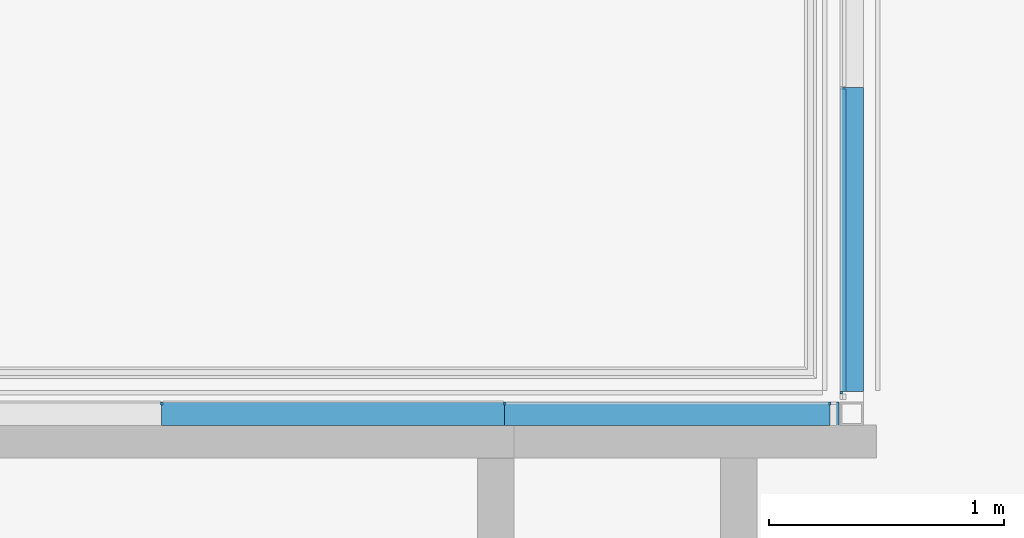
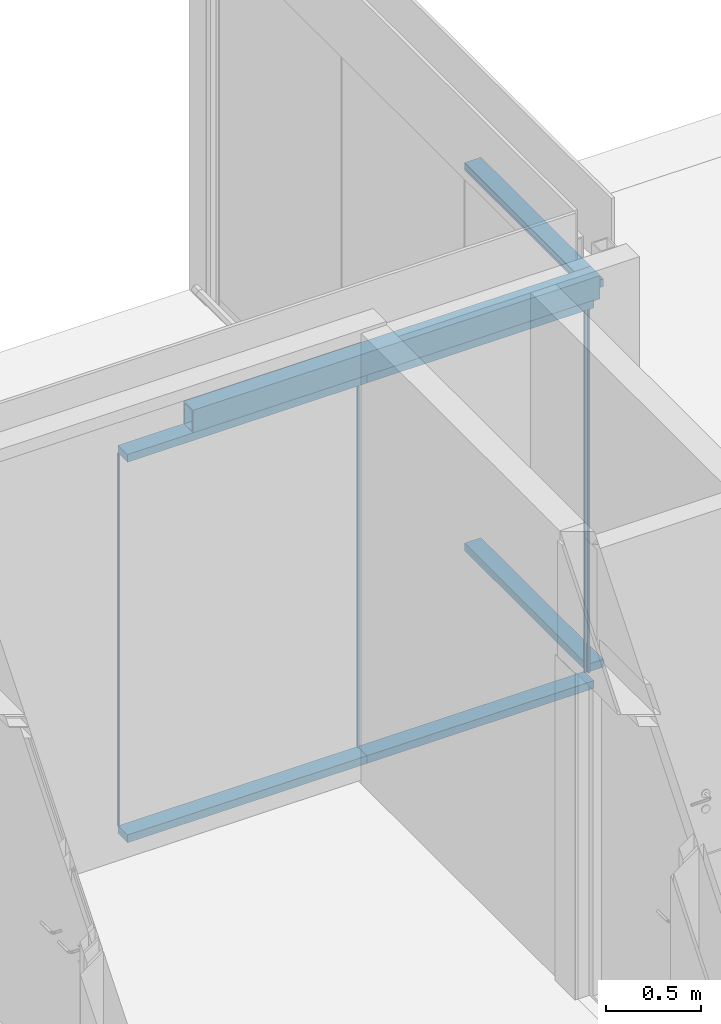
# One storey, part 3 of 37: 11 members, 1 beam, 2 elements without a shape of their own.
"""IFC2X3 building model written with IfcOpenShell, lengths in millimetres."""

from ifc_helpers import new_model, entity, si_unit, converted_unit, derived_unit, direction, frame, frame_2d, origin, origin_with_axes, origin_2d_with_axis, place, context, subcontext, project, spatial, rectangle, extrude, boolean, source, transform, mapped, material, type_object, element, aggregate, save


model = new_model("IFC2X3")

# Units and contexts
model_context = context("Model", 3, precision=0.01, world=frame((0.0, 4.29681676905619e-09, 0.0)), true_north=direction((4.01073788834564e-13, 1.0)))
plan_context = context("Plan", 3, precision=0.01, world=frame((0.0, 4.29681676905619e-09, 0.0)), true_north=direction((4.01073788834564e-13, 1.0)))
body_context = subcontext(model_context, "Body", "Model", "MODEL_VIEW")
ifc_project = project(units=[converted_unit("PLANEANGLEUNIT", "DEGREE", entity("IfcPositiveLengthMeasure", 0.0174532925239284), si_unit("PLANEANGLEUNIT", "RADIAN"), dimensions=[0, 0, 0, 0, 0, 0, 0]), si_unit("AREAUNIT", "SQUARE_METRE"), si_unit("LENGTHUNIT", "METRE", prefix="MILLI"), si_unit("MASSUNIT", "GRAM", prefix="KILO"), si_unit("POWERUNIT", "WATT"), si_unit("PRESSUREUNIT", "PASCAL"), si_unit("FORCEUNIT", "NEWTON", prefix="KILO"), si_unit("ELECTRICVOLTAGEUNIT", "VOLT"), si_unit("ELECTRICCURRENTUNIT", "AMPERE"), si_unit("THERMODYNAMICTEMPERATUREUNIT", "DEGREE_CELSIUS"), si_unit("TIMEUNIT", "SECOND"), si_unit("VOLUMEUNIT", "CUBIC_METRE"), derived_unit("LINEARVELOCITYUNIT", [(si_unit("LENGTHUNIT", "METRE"), 1), (si_unit("TIMEUNIT", "SECOND"), -1)]), derived_unit("VOLUMETRICFLOWRATEUNIT", [(si_unit("VOLUMEUNIT", "CUBIC_METRE"), 1), (si_unit("TIMEUNIT", "SECOND"), -1)]), derived_unit("THERMALTRANSMITTANCEUNIT", [(si_unit("POWERUNIT", "WATT"), 1), (si_unit("THERMODYNAMICTEMPERATUREUNIT", "KELVIN"), -1), (si_unit("AREAUNIT", "SQUARE_METRE"), -1)]), derived_unit("SOUNDPRESSUREUNIT", [(si_unit("PRESSUREUNIT", "PASCAL"), 1)])], contexts=[model_context, plan_context])

# Site, building, storey
site_placement = place(None, origin_with_axes())
site = spatial("IfcSite", under=ifc_project, at=site_placement, Name="ENGM", CompositionType="ELEMENT")
building_placement = place(site_placement, origin_with_axes())
building = spatial("IfcBuilding", under=site, at=building_placement, Name="TS", CompositionType="ELEMENT")
storey_placement = place(building_placement, frame((0.0, 0.0, 210900.0), z_axis=(0.0, 0.0, 1.0), x_axis=(1.0, 0.0, 0.0)))
storey = spatial("IfcBuildingStorey", under=building, at=storey_placement, Name="Nivå F", CompositionType="ELEMENT", Elevation=210900.0)

# Curtain wall, members
curtain_wall_type = type_object("IfcCurtainWallType", Name="Curtain Wall:A242 - IGV - Glass - 10 mm", PredefinedType="NOTDEFINED")
curtain_wall_1_placement = place(storey_placement, frame((0.0, 0.0, -210900.0), z_axis=(0.0, 0.0, 1.0), x_axis=(1.0, 0.0, 0.0)))
curtain_wall_1 = element("IfcCurtainWall", 1, at=curtain_wall_1_placement, inside=storey, type_object=curtain_wall_type, Name="Curtain Wall:A242 - IGV - Glass - 10 mm", ObjectType="Curtain Wall:A242 - IGV - Glass - 10 mm")
ifc_material_1 = material(Name="Metal - Aluminium")
member_type_1 = type_object("IfcMemberType", Name="Rectangular Mullion:A233 - Sprosse rektangulær - 50 x 100 mm", PredefinedType="MULLION", material=ifc_material_1)
shared_shape_1 = source(origin(), body_context, "Body", "SweptSolid", [
    extrude(rectangle(XDim=50.0, YDim=100.0, at=origin_2d_with_axis()), frame((-25.0, 50.0, -1291.66666666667), z_axis=(0.0, 0.0, 1.0), x_axis=(-1.0, 0.0, 0.0)), (0.0, 0.0, 1.0), 1291.66666666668),
])
member_1_placement = place(curtain_wall_1_placement, frame((524920.000000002, 457794.999999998, 210905.0), z_axis=(0.0, -1.0, 0.0), x_axis=(0.0, 0.0, -1.0)))
member_1 = element("IfcMember", 2, at=member_1_placement, type_object=member_type_1, material=ifc_material_1, Name="Rectangular Mullion:A233 - Sprosse rektangulær - 50 x 100 mm", ObjectType="Rectangular Mullion:A233 - Sprosse rektangulær - 50 x 100 mm", context=body_context, shape_type="MappedRepresentation", body=[
    mapped(shared_shape_1, transform((0.0, 0.0, 0.0), scale=1.0)),
])
ifc_material_2 = material(Name="Fuge l")
member_type_2 = type_object("IfcMemberType", Name="Rectangular Mullion:A233 - Fuge 10 mm", PredefinedType="MULLION", material=ifc_material_2)
shared_shape_2 = source(origin(), body_context, "Body", "SweptSolid", [
    extrude(rectangle(XDim=11.9999999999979, YDim=10.0, at=origin_2d_with_axis()), frame((0.0, 6.0, -2475.0), z_axis=(0.0, 0.0, 1.0), x_axis=(0.0, 1.0, 0.0)), (0.0, 0.0, 1.0), 2475.00000000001),
])
member_2_placement = place(curtain_wall_1_placement, frame((524920.000000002, 457789.999999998, 210905.0), z_axis=(0.0, 0.0, -1.0), x_axis=(0.0, 1.0, 0.0)))
member_2 = element("IfcMember", 3, at=member_2_placement, type_object=member_type_2, material=ifc_material_2, Name="Rectangular Mullion:A233 - Fuge 10 mm", ObjectType="Rectangular Mullion:A233 - Fuge 10 mm", context=body_context, shape_type="MappedRepresentation", body=[
    mapped(shared_shape_2, transform((0.0, 0.0, 0.0), scale=1.0)),
])
member_type_3 = type_object("IfcMemberType", Name="Rectangular Mullion:A233 - Sprosse rektangulær - 50 x 100 mm", PredefinedType="MULLION", material=ifc_material_1)
shared_shape_3 = source(origin(), body_context, "Body", "SweptSolid", [
    extrude(rectangle(XDim=50.0, YDim=100.0, at=origin_2d_with_axis()), frame((0.0, 50.0, -1291.66666666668), z_axis=(0.0, 0.0, 1.0), x_axis=(-1.0, 0.0, 0.0)), (0.0, 0.0, 1.0), 1291.66666666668),
])
member_3_placement = place(curtain_wall_1_placement, frame((524920.000000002, 459086.666666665, 213380.0), z_axis=(0.0, 1.0, 0.0), x_axis=(0.0, 0.0, 1.0)))
member_3 = element("IfcMember", 4, at=member_3_placement, type_object=member_type_3, material=ifc_material_1, Name="Rectangular Mullion:A233 - Sprosse rektangulær - 50 x 100 mm", ObjectType="Rectangular Mullion:A233 - Sprosse rektangulær - 50 x 100 mm", context=body_context, shape_type="MappedRepresentation", body=[
    mapped(shared_shape_3, transform((0.0, 0.0, 0.0), scale=1.0)),
])
ifc_material_3 = material(Name="T2 - Rubber")
member_type_4 = type_object("IfcMemberType", Name="Rectangular Mullion:A233 - Sprosse - 00(post)+25(fuge inkl glass) x 30 mm", PredefinedType="MULLION", material=ifc_material_3)
shared_shape_4 = source(origin(), body_context, "Body", "SweptSolid", [
    extrude(rectangle(XDim=30.0, YDim=25.0, at=origin_2d_with_axis()), frame((-15.0, 12.5, -1286.66666666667), z_axis=(0.0, 0.0, 1.0), x_axis=(-1.0, 0.0, 0.0)), (0.0, 0.0, 1.0), 1286.66666666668),
])
member_4_placement = place(curtain_wall_1_placement, frame((524920.000000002, 459081.666666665, 213400.0), z_axis=(0.0, 1.0, 0.0), x_axis=(0.0, 0.0, 1.0)))
member_4 = element("IfcMember", 5, at=member_4_placement, type_object=member_type_4, material=ifc_material_3, Name="Rectangular Mullion:A233 - Sprosse - 00(post)+25(fuge inkl glass) x 30 mm", ObjectType="Rectangular Mullion:A233 - Sprosse - 00(post)+25(fuge inkl glass) x 30 mm", context=body_context, shape_type="MappedRepresentation", body=[
    mapped(shared_shape_4, transform((0.0, 0.0, 0.0), scale=1.0)),
])
aggregate(curtain_wall_1, [member_1, member_2, member_3, member_4])

curtain_wall_2_placement = place(storey_placement, frame((0.0, 0.0, -210900.0), z_axis=(0.0, 0.0, 1.0), x_axis=(1.0, 0.0, 0.0)))
curtain_wall_2 = element("IfcCurtainWall", 6, at=curtain_wall_2_placement, inside=storey, type_object=curtain_wall_type, Name="Curtain Wall:A242 - IGV - Glass - 10 mm", ObjectType="Curtain Wall:A242 - IGV - Glass - 10 mm")
member_type_5 = type_object("IfcMemberType", Name="Rectangular Mullion:A233 - Fuge 10 mm", PredefinedType="MULLION", material=ifc_material_2)
shared_shape_5 = source(origin(), body_context, "Body", "SweptSolid", [
    extrude(rectangle(XDim=11.9999999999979, YDim=10.0, at=origin_2d_with_axis()), frame((0.0, 6.0, -2400.0), z_axis=(0.0, 0.0, 1.0), x_axis=(0.0, 1.0, 0.0)), (0.0, 0.0, 1.0), 2400.00000000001),
])
member_5_placement = place(curtain_wall_2_placement, frame((524877.250000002, 457749.999999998, 210955.0), z_axis=(0.0, 0.0, -1.0), x_axis=(1.0, 0.0, 0.0)))
member_5 = element("IfcMember", 7, at=member_5_placement, type_object=member_type_5, material=ifc_material_2, Name="Rectangular Mullion:A233 - Fuge 10 mm", ObjectType="Rectangular Mullion:A233 - Fuge 10 mm", context=body_context, shape_type="MappedRepresentation", body=[
    mapped(shared_shape_5, transform((0.0, 0.0, 0.0), scale=1.0)),
])
member_6_placement = place(curtain_wall_2_placement, frame((522037.500000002, 457749.999999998, 210955.0), z_axis=(0.0, 0.0, -1.0), x_axis=(1.0, 0.0, 0.0)))
member_6 = element("IfcMember", 8, at=member_6_placement, type_object=member_type_5, material=ifc_material_2, Name="Rectangular Mullion:A233 - Fuge 10 mm", ObjectType="Rectangular Mullion:A233 - Fuge 10 mm", context=body_context, shape_type="MappedRepresentation", body=[
    mapped(shared_shape_5, transform((0.0, 0.0, 0.0), scale=1.0)),
])
member_7_placement = place(curtain_wall_2_placement, frame((523495.000000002, 457749.999999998, 210955.0), z_axis=(0.0, 0.0, -1.0), x_axis=(1.0, 0.0, 0.0)))
member_7 = element("IfcMember", 9, at=member_7_placement, type_object=member_type_5, material=ifc_material_2, Name="Rectangular Mullion:A233 - Fuge 10 mm", ObjectType="Rectangular Mullion:A233 - Fuge 10 mm", context=body_context, shape_type="MappedRepresentation", body=[
    mapped(shared_shape_5, transform((0.0, 0.0, 0.0), scale=1.0)),
])
member_type_6 = type_object("IfcMemberType", Name="Rectangular Mullion:A233 - Sprosse rektangulær - 50 x 100 mm", PredefinedType="MULLION", material=ifc_material_1)
shared_shape_6 = source(origin(), body_context, "Body", "SweptSolid", [
    extrude(rectangle(XDim=50.0, YDim=100.0, at=origin_2d_with_axis()), frame((-25.0, 50.0, -1457.49999999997), z_axis=(0.0, 0.0, 1.0), x_axis=(-1.0, 0.0, 0.0)), (0.0, 0.0, 1.0), 1457.49999999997),
])
member_8_placement = place(curtain_wall_2_placement, frame((522037.500000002, 457749.999999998, 210905.0), z_axis=(-1.0, 0.0, 0.0), x_axis=(0.0, 0.0, -1.0)))
member_8 = element("IfcMember", 10, at=member_8_placement, type_object=member_type_6, material=ifc_material_1, Name="Rectangular Mullion:A233 - Sprosse rektangulær - 50 x 100 mm", ObjectType="Rectangular Mullion:A233 - Sprosse rektangulær - 50 x 100 mm", context=body_context, shape_type="MappedRepresentation", body=[
    mapped(shared_shape_6, transform((0.0, 0.0, 0.0), scale=1.0)),
])
member_type_7 = type_object("IfcMemberType", Name="Rectangular Mullion:A233 - Sprosse rektangulær - 50 x 100 mm", PredefinedType="MULLION", material=ifc_material_1)
member_9_placement = place(curtain_wall_2_placement, frame((523495.000000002, 457749.999999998, 213405.0), z_axis=(1.0, 0.0, 0.0), x_axis=(0.0, 0.0, 1.0)))
member_9 = element("IfcMember", 11, at=member_9_placement, type_object=member_type_7, material=ifc_material_1, Name="Rectangular Mullion:A233 - Sprosse rektangulær - 50 x 100 mm", ObjectType="Rectangular Mullion:A233 - Sprosse rektangulær - 50 x 100 mm", context=body_context, shape_type="MappedRepresentation", body=[
    mapped(shared_shape_6, transform((0.0, 0.0, 0.0), scale=1.0)),
])
member_type_8 = type_object("IfcMemberType", Name="Rectangular Mullion:A233 - Sprosse rektangulær - 50 x 100 mm", PredefinedType="MULLION", material=ifc_material_1)
shared_shape_7 = source(origin(), body_context, "Body", "SweptSolid", [
    extrude(rectangle(XDim=50.0, YDim=100.0, at=origin_2d_with_axis()), frame((-25.0, 50.0, -1382.25000000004), z_axis=(0.0, 0.0, 1.0), x_axis=(-1.0, 0.0, 0.0)), (0.0, 0.0, 1.0), 1382.25000000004),
])
member_10_placement = place(curtain_wall_2_placement, frame((524877.250000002, 457749.999999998, 213405.0), z_axis=(1.0, 0.0, 0.0), x_axis=(0.0, 0.0, 1.0)))
member_10 = element("IfcMember", 12, at=member_10_placement, type_object=member_type_8, material=ifc_material_1, Name="Rectangular Mullion:A233 - Sprosse rektangulær - 50 x 100 mm", ObjectType="Rectangular Mullion:A233 - Sprosse rektangulær - 50 x 100 mm", context=body_context, shape_type="MappedRepresentation", body=[
    mapped(shared_shape_7, transform((0.0, 0.0, 0.0), scale=1.0)),
])
member_type_9 = type_object("IfcMemberType", Name="Rectangular Mullion:A233 - Sprosse rektangulær - 50 x 100 mm", PredefinedType="MULLION", material=ifc_material_1)
member_11_placement = place(curtain_wall_2_placement, frame((523495.000000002, 457749.999999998, 210905.0), z_axis=(-1.0, 0.0, 0.0), x_axis=(0.0, 0.0, -1.0)))
member_11 = element("IfcMember", 13, at=member_11_placement, type_object=member_type_9, material=ifc_material_1, Name="Rectangular Mullion:A233 - Sprosse rektangulær - 50 x 100 mm", ObjectType="Rectangular Mullion:A233 - Sprosse rektangulær - 50 x 100 mm", context=body_context, shape_type="MappedRepresentation", body=[
    mapped(shared_shape_7, transform((0.0, 0.0, 0.0), scale=1.0)),
])
aggregate(curtain_wall_2, [member_8, member_5, member_10, member_11, member_9, member_6, member_7])

# Beam
ifc_material_4 = material(Name="_NSW Stål")
beam_type = type_object("IfcBeamType", Name="B223 - Bjelke - HUP1:B223 - HUP 100 x 150 x 8 mm", PredefinedType="BEAM")
beam_placement = place(storey_placement, frame((524916.097587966, 457699.999999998, 2500.0), z_axis=(0.0, 0.0, 1.0), x_axis=(-1.0, 0.0, 0.0)))
element("IfcBeam", 14, at=beam_placement, inside=storey, type_object=beam_type, material=ifc_material_4, Name="B223 - Bjelke - HUP1:B223 - HUP 100 x 150 x 8 mm", ObjectType="B223 - Bjelke - HUP1:B223 - HUP 100 x 150 x 8 mm", context=body_context, shape_type="SweptSolid", body=[
    boolean("DIFFERENCE", extrude(rectangle(XDim=150.000000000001, YDim=100.000000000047, at=frame_2d((0.0, 6.93063384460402e-11), x_axis=(1.0, 0.0))), frame((0.0, 0.0, 75.0), z_axis=(1.0, 0.0, 0.0), x_axis=(0.0, 0.0, -1.0)), (0.0, 0.0, 1.0), 2479.99999999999), extrude(rectangle(XDim=134.000000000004, YDim=83.9999999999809, at=frame_2d((-3.46531692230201e-11, 0.0), x_axis=(0.0, 1.0))), frame((0.0, 0.0, 75.0), z_axis=(1.0, 0.0, 0.0), x_axis=(0.0, -1.0, 0.0)), (0.0, 0.0, 1.0), 2479.99999999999)),
])

save(model, "model.ifc")
